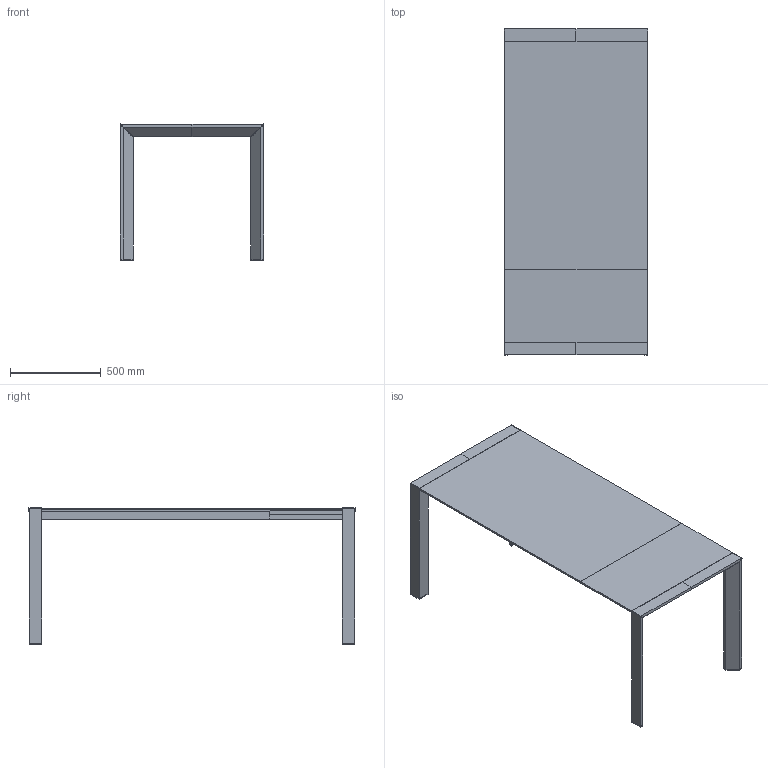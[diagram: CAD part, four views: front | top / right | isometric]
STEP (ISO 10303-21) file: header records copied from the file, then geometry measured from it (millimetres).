
FILE_DESCRIPTION(/* description */ (''),/* implementation_level */ '2;1');
FILE_NAME(/* name */ '10664 - Afill 140+40x79',/* time_stamp */ '2010-11-03T15:11:18+01:00',/* author */ (''),/* organization */ (''),/* preprocessor_version */ 'ST-DEVELOPER v10',/* originating_system */ '',/* authorisation */ '');
FILE_SCHEMA (('CONFIG_CONTROL_DESIGN'));
Length unit declared in the file: centimetre
Products named in the file (1): 1
Bounding box: 792.24 x 1800.6 x 751.1 mm (x, y, z)
Volume: 40711928.8 mm3; surface area: 5697242.4 mm2
Topology: 14 solids, 14 shells, 166 faces, 380 edges, 250 vertices
Faces by surface type: plane 166
Entity records: 4158 total; most frequent: CARTESIAN_POINT 1258, ORIENTED_EDGE 760, EDGE_CURVE 380, B_SPLINE_CURVE_WITH_KNOTS 380, VERTEX_POINT 250, EDGE_LOOP 174, DIRECTION 170, AXIS2_PLACEMENT_3D 168
